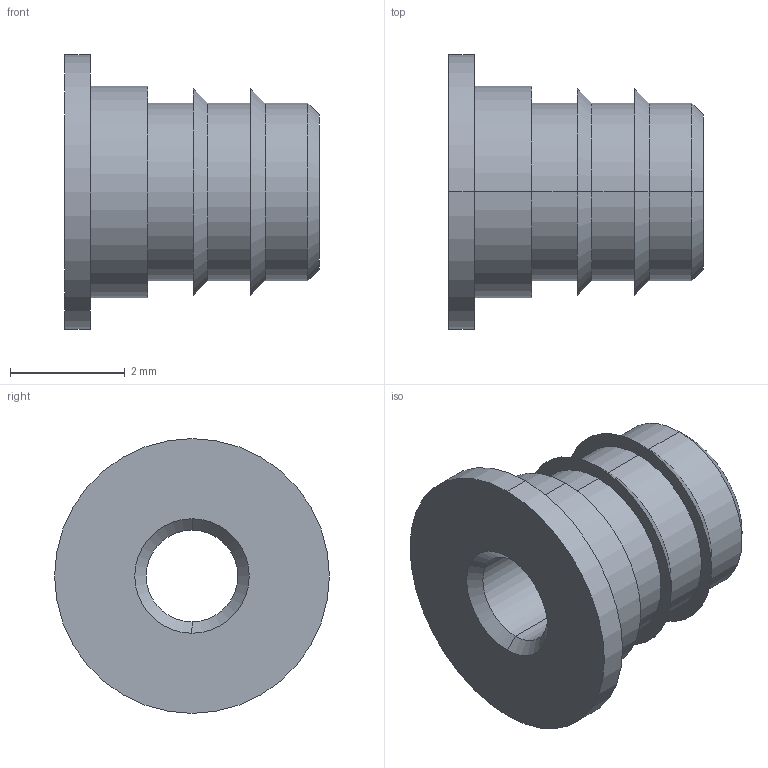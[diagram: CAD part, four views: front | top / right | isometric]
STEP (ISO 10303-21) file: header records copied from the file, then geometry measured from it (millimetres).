
FILE_DESCRIPTION (( 'STEP AP203' ), '1' );
FILE_NAME ('FSUK-PUH-M02-S.STEP', '2021-04-15T12:36:15', ( '' ), ( '' ), 'SwSTEP 2.0', 'SolidWorks 2021', '' );
FILE_SCHEMA (( 'CONFIG_CONTROL_DESIGN' ));
Length unit declared in the file: millimetre
Products named in the file (1): FSUK-PUH-M02-S
Bounding box: 4.45 x 4.8 x 4.8 mm (x, y, z)
Volume: 32.8 mm3; surface area: 107.7 mm2
Topology: 1 solids, 1 shells, 28 faces, 56 edges, 34 vertices
Faces by surface type: cylinder 12, cone 10, plane 6
Entity records: 815 total; most frequent: DIRECTION 148, CARTESIAN_POINT 119, ORIENTED_EDGE 112, AXIS2_PLACEMENT_3D 63, EDGE_CURVE 56, CIRCLE 34, EDGE_LOOP 34, VERTEX_POINT 34
